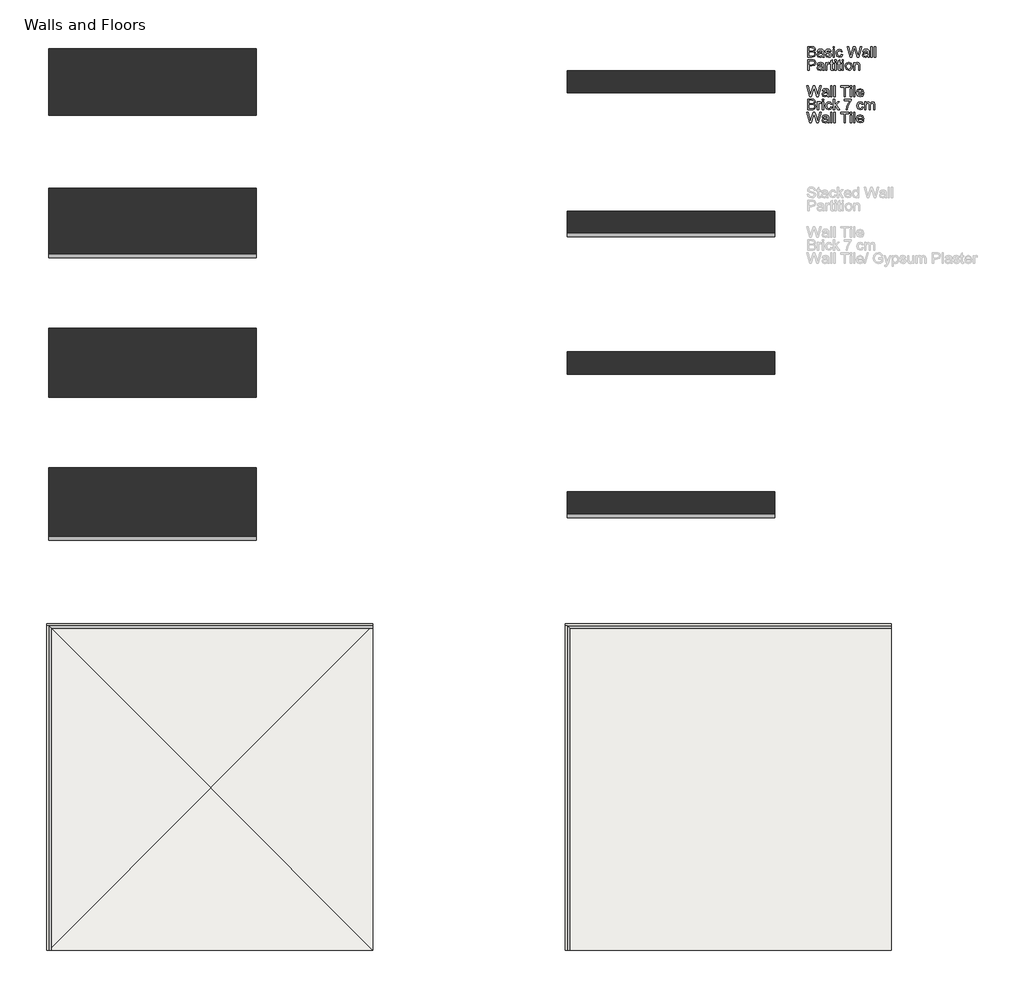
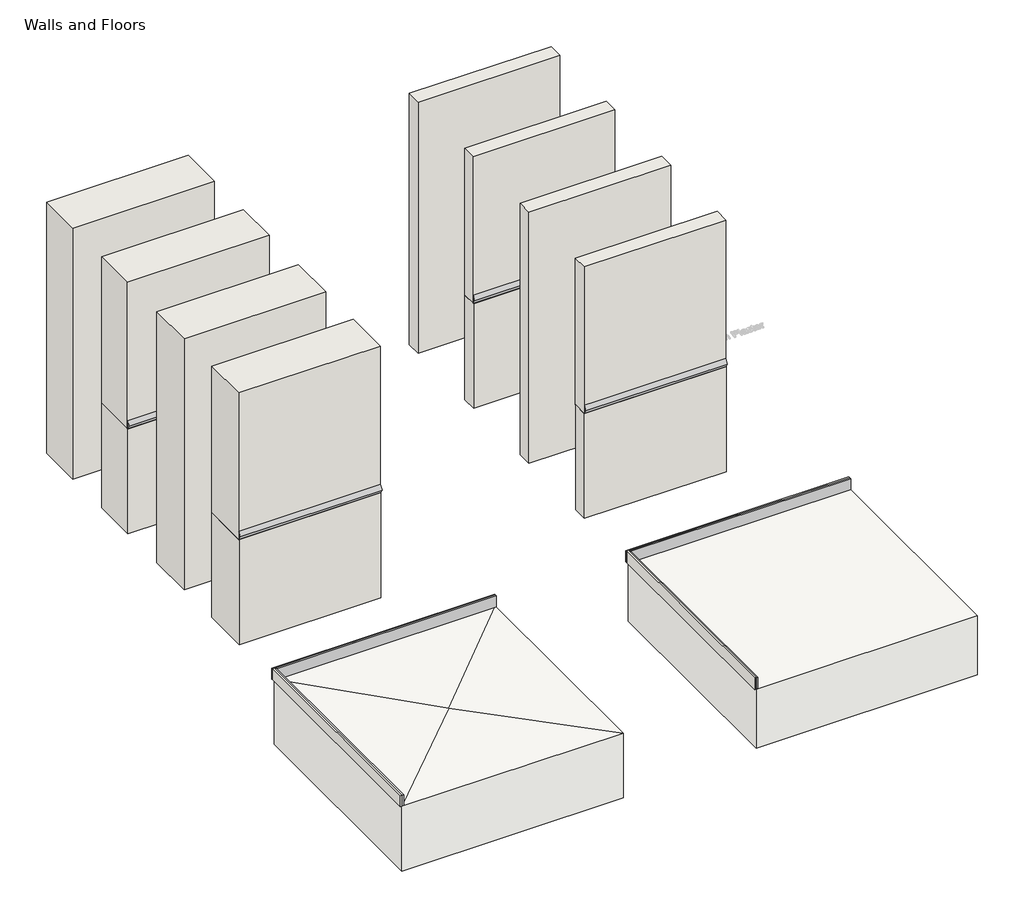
# One storey, part 1 of 2: 16 walls, 6 proxies, 2 slabs.
"""IFC4 building model written with IfcOpenShell, lengths in millimetres."""

from ifc_helpers import new_model, si_unit, frame, origin, origin_with_axes, place, context, project, spatial, polyline, outline, extrude, faceted_brep, element, save

model = new_model("IFC4")

# Units and contexts
model_context = context("Model", 3, world=origin())
ifc_project = project(units=[si_unit("LENGTHUNIT", "METRE", prefix="MILLI")], contexts=[model_context])

# Site, building, storey
site = spatial("IfcSite", under=ifc_project)
building = spatial("IfcBuilding", under=site)
storey = spatial("IfcBuildingStorey", under=building, Name="Walls and Floors", Elevation=0.0)

# Proxies
placement = place(None, origin())
element("IfcBuildingElementProxy", 1, Name="Cesantoni_Kiel_8x120_RO_Sand_Mate", ObjectType="Cesantoni_Kiel_8x120_RO_Sand_Mate", at=placement, inside=storey, context=model_context, shape_type="SweptSolid", body=[
    extrude(outline(polyline([(-7355.540849, -3634.4607854), (-7344.540849, -3645.4607854), (-7344.540849, -5134.4607854), (-7355.540849, -5134.4607854), (-7355.540849, -3634.4607854)])), origin_with_axes(), (0.0, 0.0, 1.0), 80.0),
    extrude(outline(polyline([(-5855.540849, -3634.4607854), (-5855.540849, -3645.4607854), (-7344.540849, -3645.4607854), (-7355.540849, -3634.4607854), (-5855.540849, -3634.4607854)])), origin_with_axes(), (0.0, 0.0, 1.0), 80.0),
])
element("IfcBuildingElementProxy", 2, Name="Cesantoni_Kiel_8x120_RO_Sand_Mate", ObjectType="Cesantoni_Kiel_8x120_RO_Sand_Mate", at=placement, inside=storey, context=model_context, shape_type="SweptSolid", body=[
    extrude(outline(polyline([(-4955.540849, -3634.4607854), (-4944.540849, -3645.4607854), (-4944.540849, -5134.4607854), (-4955.540849, -5134.4607854), (-4955.540849, -3634.4607854)])), origin_with_axes(), (0.0, 0.0, 1.0), 80.0),
    extrude(outline(polyline([(-3455.540849, -3634.4607854), (-3455.540849, -3645.4607854), (-4944.540849, -3645.4607854), (-4955.540849, -3634.4607854), (-3455.540849, -3634.4607854)])), origin_with_axes(), (0.0, 0.0, 1.0), 80.0),
])
element("IfcBuildingElementProxy", 3, Name="Cesantoni_Cascata_30x6_Sand_Mate", ObjectType="Cesantoni_Cascata_30x6_Sand_Mate", at=placement, inside=storey, context=model_context, shape_type="SweptSolid", body=[
    extrude(outline(polyline([(-3134.8345653, 780.0), (-3115.8345653, 810.0), (-3115.8345653, 797.8516499), (-3127.1406103, 780.0), (-3115.8345653, 762.1483501), (-3115.8345653, 750.0), (-3134.8345653, 780.0)])), frame((-4955.540849, 0.0, 0.0), z_axis=(1.0, 0.0, 0.0), x_axis=(0.0, 1.0, 0.0)), (0.0, 0.0, 1.0), 960.0),
])
element("IfcBuildingElementProxy", 4, Name="Cesantoni_Cascata_30x6_Sand_Mate", ObjectType="Cesantoni_Cascata_30x6_Sand_Mate", at=placement, inside=storey, context=model_context, shape_type="SweptSolid", body=[
    extrude(outline(polyline([(-3237.8345653, 780.0), (-3218.8345653, 810.0), (-3218.8345653, 797.8516499), (-3230.1406103, 780.0), (-3218.8345653, 762.1483501), (-3218.8345653, 750.0), (-3237.8345653, 780.0)])), frame((-7355.540849, 0.0, 0.0), z_axis=(1.0, 0.0, 0.0), x_axis=(0.0, 1.0, 0.0)), (0.0, 0.0, 1.0), 960.0),
    extrude(outline(polyline([(-1931.3345653, 780.0), (-1912.3345653, 810.0), (-1912.3345653, 797.8516499), (-1923.6406103, 780.0), (-1912.3345653, 762.1483501), (-1912.3345653, 750.0), (-1931.3345653, 780.0)])), frame((-7355.540849, 0.0, 0.0), z_axis=(1.0, 0.0, 0.0), x_axis=(0.0, 1.0, 0.0)), (0.0, 0.0, 1.0), 960.0),
])
element("IfcBuildingElementProxy", 5, Name="Cesantoni_Cascata_30x6_Sand_Mate", ObjectType="Cesantoni_Cascata_30x6_Sand_Mate", at=placement, inside=storey, context=model_context, shape_type="SweptSolid", body=[
    extrude(outline(polyline([(-1833.8345653, 780.0), (-1814.8345653, 810.0), (-1814.8345653, 797.8516499), (-1826.1406103, 780.0), (-1814.8345653, 762.1483501), (-1814.8345653, 750.0), (-1833.8345653, 780.0)])), frame((-4955.540849, 0.0, 0.0), z_axis=(1.0, 0.0, 0.0), x_axis=(0.0, 1.0, 0.0)), (0.0, 0.0, 1.0), 960.0),
])
element("IfcBuildingElementProxy", 6, Name="4mm Arial", ObjectType="4mm Arial", at=placement, inside=storey, context=model_context, shape_type="SweptSolid", body=[
    extrude(outline(polyline([(-3842.4724394, -1002.1417002), (-3842.4724394, -952.9109309), (-3823.6863817, -952.9109309), (-3814.4856606, -954.3592482), (-3809.0529683, -958.8123732), (-3807.087824, -965.1104502), (-3808.7404683, -970.8616521), (-3813.7344587, -975.2186232), (-3807.6707567, -979.8099694), (-3805.5493625, -987.4662194), (-3806.9976798, -994.0828059), (-3810.5854202, -998.7943444), (-3815.9399875, -1001.2943444), (-3823.8306125, -1002.1417002), (-3842.4724394, -1002.1417002)]), holes=[polyline([(-3836.3185933, -972.9109309), (-3825.0806125, -972.9109309), (-3818.5181125, -972.3820848), (-3814.5697952, -970.1044405), (-3813.2416702, -966.0960271), (-3814.479651, -962.081604), (-3818.025324, -959.7078059), (-3825.9339779, -959.0647771), (-3836.3185933, -959.0647771), (-3836.3185933, -972.9109309)]), polyline([(-3836.3185933, -995.987854), (-3823.698401, -995.987854), (-3819.1310933, -995.7474694), (-3815.2669106, -994.4073252), (-3812.7068144, -991.6729502), (-3811.7032087, -987.5263155), (-3812.8810933, -982.7426617), (-3816.697199, -979.8880944), (-3824.2993625, -979.0647771), (-3836.3185933, -979.0647771), (-3836.3185933, -995.987854)])]), origin_with_axes(), (0.0, 0.0, 1.0), 10.0),
    extrude(outline(polyline([(-3774.7801317, -997.5263155), (-3780.7476798, -1001.6969886), (-3787.3402279, -1002.9109309), (-3796.276526, -999.9902579), (-3799.3955163, -992.5263155), (-3798.2176317, -987.6585271), (-3795.1226798, -984.1248732), (-3790.8137856, -982.1056425), (-3785.4892663, -981.1801617), (-3774.8161894, -979.0647771), (-3776.4748433, -973.1513155), (-3783.2777279, -971.3724694), (-3789.5036894, -972.5563636), (-3792.4724394, -976.7570848), (-3798.6262856, -975.987854), (-3795.964026, -969.9782386), (-3790.603449, -966.456604), (-3782.4844587, -965.2186232), (-3775.026526, -966.3123732), (-3770.8137856, -969.0587675), (-3768.9267663, -973.2354502), (-3768.6262856, -978.6200655), (-3768.6262856, -986.2763155), (-3768.3137856, -996.9674213), (-3767.087824, -1002.1417002), (-3773.2416702, -1002.1417002), (-3774.7801317, -997.5263155)]), holes=[polyline([(-3774.7801317, -985.2186232), (-3784.7080163, -987.1056425), (-3790.0024875, -988.1032386), (-3792.400324, -989.7258348), (-3793.2416702, -992.0936232), (-3791.4087375, -995.4229502), (-3786.0301317, -996.7570848), (-3779.8041702, -995.284729), (-3775.7897471, -991.7210271), (-3774.8161894, -986.9614117), (-3774.7801317, -985.2186232)])]), origin_with_axes(), (0.0, 0.0, 1.0), 10.0),
    extrude(outline(polyline([(-3762.4724394, -991.3724694), (-3756.3185933, -990.6032386), (-3753.4700356, -995.1705463), (-3746.9435933, -996.7570848), (-3740.6695548, -995.3027579), (-3738.6262856, -991.8892963), (-3740.681574, -989.1248732), (-3747.0157087, -987.3700655), (-3756.2825356, -984.3592482), (-3760.3270067, -980.8436232), (-3761.7032087, -975.8796809), (-3760.5974394, -971.2943444), (-3757.5806125, -967.7907386), (-3753.6683529, -965.9698252), (-3748.3738817, -965.2186232), (-3740.885901, -966.4265559), (-3736.1262856, -969.6957867), (-3734.010901, -975.2186232), (-3740.1647471, -975.987854), (-3742.478449, -972.5924213), (-3747.8931125, -971.3724694), (-3753.7825356, -972.5383348), (-3755.5493625, -975.2546809), (-3754.8161894, -977.0455463), (-3752.5205163, -978.4037194), (-3747.2200356, -979.7138155), (-3738.1875837, -982.6104502), (-3733.9928721, -985.8917002), (-3732.4724394, -991.2402579), (-3734.2572952, -997.1296809), (-3739.4075356, -1001.4025175), (-3747.0277279, -1002.9109309), (-3757.760901, -1000.0022771), (-3762.4724394, -991.3724694)])), origin_with_axes(), (0.0, 0.0, 1.0), 10.0),
    extrude(outline(polyline([(-3725.5493625, -959.0647771), (-3725.5493625, -952.9109309), (-3719.3955163, -952.9109309), (-3719.3955163, -959.0647771), (-3725.5493625, -959.0647771)])), origin_with_axes(), (0.0, 0.0, 1.0), 10.0),
    extrude(outline(polyline([(-3725.5493625, -1002.1417002), (-3725.5493625, -965.987854), (-3719.3955163, -965.987854), (-3719.3955163, -1002.1417002), (-3725.5493625, -1002.1417002)])), origin_with_axes(), (0.0, 0.0, 1.0), 10.0),
    extrude(outline(polyline([(-3687.087824, -989.0647771), (-3680.9339779, -989.8340079), (-3685.8738817, -999.4433829), (-3695.6334971, -1002.9109309), (-3707.2981606, -998.0731905), (-3711.7032087, -984.1969886), (-3709.822199, -973.9746329), (-3704.089026, -967.4061232), (-3695.7176317, -965.2186232), (-3686.3606606, -968.2234309), (-3681.7032087, -976.7570848), (-3687.8570548, -977.5263155), (-3690.7116221, -972.9169405), (-3695.6695548, -971.3724694), (-3702.8029683, -974.4133348), (-3705.5493625, -984.0287194), (-3702.8630644, -993.7342482), (-3695.837824, -996.7570848), (-3690.0385452, -994.8700655), (-3687.087824, -989.0647771)])), origin_with_axes(), (0.0, 0.0, 1.0), 10.0),
    extrude(outline(polyline([(-3646.7392663, -1002.1417002), (-3660.1647471, -952.9109309), (-3653.8185933, -952.9109309), (-3646.0301317, -985.2667002), (-3643.6262856, -995.2546809), (-3641.0541702, -986.4205463), (-3631.2945548, -952.9109309), (-3622.1479202, -952.9109309), (-3615.056574, -977.2017963), (-3609.7801317, -995.2546809), (-3607.448401, -985.5551617), (-3599.587824, -952.9109309), (-3593.2416702, -952.9109309), (-3606.6791702, -1002.1417002), (-3613.2536894, -1002.1417002), (-3625.056574, -964.1609309), (-3626.7032087, -958.8604502), (-3628.5541702, -965.2426617), (-3639.3113817, -1002.1417002), (-3646.7392663, -1002.1417002)])), origin_with_axes(), (0.0, 0.0, 1.0), 10.0),
    extrude(outline(polyline([(-3564.7801317, -997.5263155), (-3570.7476798, -1001.6969886), (-3577.3402279, -1002.9109309), (-3586.276526, -999.9902579), (-3589.3955163, -992.5263155), (-3588.2176317, -987.6585271), (-3585.1226798, -984.1248732), (-3580.8137856, -982.1056425), (-3575.4892663, -981.1801617), (-3564.8161894, -979.0647771), (-3566.4748433, -973.1513155), (-3573.2777279, -971.3724694), (-3579.5036894, -972.5563636), (-3582.4724394, -976.7570848), (-3588.6262856, -975.987854), (-3585.964026, -969.9782386), (-3580.603449, -966.456604), (-3572.4844587, -965.2186232), (-3565.026526, -966.3123732), (-3560.8137856, -969.0587675), (-3558.9267663, -973.2354502), (-3558.6262856, -978.6200655), (-3558.6262856, -986.2763155), (-3558.3137856, -996.9674213), (-3557.087824, -1002.1417002), (-3563.2416702, -1002.1417002), (-3564.7801317, -997.5263155)]), holes=[polyline([(-3564.7801317, -985.2186232), (-3574.7080163, -987.1056425), (-3580.0024875, -988.1032386), (-3582.400324, -989.7258348), (-3583.2416702, -992.0936232), (-3581.4087375, -995.4229502), (-3576.0301317, -996.7570848), (-3569.8041702, -995.284729), (-3565.7897471, -991.7210271), (-3564.8161894, -986.9614117), (-3564.7801317, -985.2186232)])]), origin_with_axes(), (0.0, 0.0, 1.0), 10.0),
    extrude(outline(polyline([(-3550.1647471, -1002.1417002), (-3550.1647471, -952.9109309), (-3544.010901, -952.9109309), (-3544.010901, -1002.1417002), (-3550.1647471, -1002.1417002)])), origin_with_axes(), (0.0, 0.0, 1.0), 10.0),
    extrude(outline(polyline([(-3534.7801317, -1002.1417002), (-3534.7801317, -952.9109309), (-3528.6262856, -952.9109309), (-3528.6262856, -1002.1417002), (-3534.7801317, -1002.1417002)])), origin_with_axes(), (0.0, 0.0, 1.0), 10.0),
    extrude(outline(polyline([(-3842.4724394, -1062.9109309), (-3842.4724394, -1013.6801617), (-3824.2272471, -1013.6801617), (-3816.8714779, -1014.1489117), (-3810.8919106, -1016.4505944), (-3807.0157087, -1021.2102098), (-3805.5493625, -1027.9229502), (-3809.509699, -1038.5599694), (-3823.806574, -1042.9109309), (-3836.3185933, -1042.9109309), (-3836.3185933, -1062.9109309), (-3842.4724394, -1062.9109309)]), holes=[polyline([(-3836.3185933, -1036.7570848), (-3823.4459971, -1036.7570848), (-3814.3834971, -1034.4974694), (-3811.7032087, -1028.1392963), (-3813.2837375, -1023.0431425), (-3817.4363817, -1020.2546809), (-3823.5902279, -1019.8340079), (-3836.3185933, -1019.8340079), (-3836.3185933, -1036.7570848)])]), origin_with_axes(), (0.0, 0.0, 1.0), 10.0),
    extrude(outline(polyline([(-3774.7801317, -1058.2955463), (-3780.7476798, -1062.4662194), (-3787.3402279, -1063.6801617), (-3796.276526, -1060.7594886), (-3799.3955163, -1053.2955463), (-3798.2176317, -1048.4277579), (-3795.1226798, -1044.894104), (-3790.8137856, -1042.8748732), (-3785.4892663, -1041.9493925), (-3774.8161894, -1039.8340079), (-3776.4748433, -1033.9205463), (-3783.2777279, -1032.1417002), (-3789.5036894, -1033.3255944), (-3792.4724394, -1037.5263155), (-3798.6262856, -1036.7570848), (-3795.964026, -1030.7474694), (-3790.603449, -1027.2258348), (-3782.4844587, -1025.987854), (-3775.026526, -1027.081604), (-3770.8137856, -1029.8279982), (-3768.9267663, -1034.0046809), (-3768.6262856, -1039.3892963), (-3768.6262856, -1047.0455463), (-3768.3137856, -1057.7366521), (-3767.087824, -1062.9109309), (-3773.2416702, -1062.9109309), (-3774.7801317, -1058.2955463)]), holes=[polyline([(-3774.7801317, -1045.987854), (-3784.7080163, -1047.8748732), (-3790.0024875, -1048.8724694), (-3792.400324, -1050.4950655), (-3793.2416702, -1052.862854), (-3791.4087375, -1056.1921809), (-3786.0301317, -1057.5263155), (-3779.8041702, -1056.0539598), (-3775.7897471, -1052.4902579), (-3774.8161894, -1047.7306425), (-3774.7801317, -1045.987854)])]), origin_with_axes(), (0.0, 0.0, 1.0), 10.0),
    extrude(outline(polyline([(-3760.1647471, -1062.9109309), (-3760.1647471, -1026.7570848), (-3754.7801317, -1026.7570848), (-3754.7801317, -1032.1056425), (-3750.9580163, -1027.1777579), (-3747.1118625, -1025.987854), (-3740.9339779, -1027.8868925), (-3742.9892663, -1033.4037194), (-3747.3161894, -1032.1417002), (-3750.7957567, -1033.3556425), (-3753.0133048, -1036.7210271), (-3754.010901, -1043.9085271), (-3754.010901, -1062.9109309), (-3760.1647471, -1062.9109309)])), origin_with_axes(), (0.0, 0.0, 1.0), 10.0),
    extrude(outline(polyline([(-3724.010901, -1057.7787194), (-3723.2416702, -1063.0912194), (-3727.8450356, -1063.6801617), (-3733.0012856, -1062.6585271), (-3735.573401, -1059.9782386), (-3736.3185933, -1052.9950655), (-3736.3185933, -1032.9109309), (-3740.9339779, -1032.9109309), (-3740.9339779, -1026.7570848), (-3736.3185933, -1026.7570848), (-3736.3185933, -1017.9710271), (-3730.1647471, -1014.3532386), (-3730.1647471, -1026.7570848), (-3724.010901, -1026.7570848), (-3724.010901, -1032.9109309), (-3730.1647471, -1032.9109309), (-3730.1647471, -1052.8147771), (-3729.8402279, -1055.987854), (-3726.6911894, -1057.5263155), (-3724.010901, -1057.7787194)])), origin_with_axes(), (0.0, 0.0, 1.0), 10.0),
    extrude(outline(polyline([(-3717.8570548, -1062.9109309), (-3717.8570548, -1026.7570848), (-3711.7032087, -1026.7570848), (-3711.7032087, -1062.9109309), (-3717.8570548, -1062.9109309)])), origin_with_axes(), (0.0, 0.0, 1.0), 10.0),
    extrude(outline(polyline([(-3717.8570548, -1019.8340079), (-3717.8570548, -1013.6801617), (-3711.7032087, -1013.6801617), (-3711.7032087, -1019.8340079), (-3717.8570548, -1019.8340079)])), origin_with_axes(), (0.0, 0.0, 1.0), 10.0),
    extrude(outline(polyline([(-3689.3955163, -1057.7787194), (-3688.6262856, -1063.0912194), (-3693.229651, -1063.6801617), (-3698.385901, -1062.6585271), (-3700.9580163, -1059.9782386), (-3701.7032087, -1052.9950655), (-3701.7032087, -1032.9109309), (-3706.3185933, -1032.9109309), (-3706.3185933, -1026.7570848), (-3701.7032087, -1026.7570848), (-3701.7032087, -1017.9710271), (-3695.5493625, -1014.3532386), (-3695.5493625, -1026.7570848), (-3689.3955163, -1026.7570848), (-3689.3955163, -1032.9109309), (-3695.5493625, -1032.9109309), (-3695.5493625, -1052.8147771), (-3695.2248433, -1055.987854), (-3692.0758048, -1057.5263155), (-3689.3955163, -1057.7787194)])), origin_with_axes(), (0.0, 0.0, 1.0), 10.0),
    extrude(outline(polyline([(-3683.2416702, -1019.8340079), (-3683.2416702, -1013.6801617), (-3677.087824, -1013.6801617), (-3677.087824, -1019.8340079), (-3683.2416702, -1019.8340079)])), origin_with_axes(), (0.0, 0.0, 1.0), 10.0),
    extrude(outline(polyline([(-3683.2416702, -1062.9109309), (-3683.2416702, -1026.7570848), (-3677.087824, -1026.7570848), (-3677.087824, -1062.9109309), (-3683.2416702, -1062.9109309)])), origin_with_axes(), (0.0, 0.0, 1.0), 10.0),
    extrude(outline(polyline([(-3669.3955163, -1044.8340079), (-3668.0643865, -1036.1170607), (-3664.0709971, -1029.9902579), (-3653.229651, -1025.987854), (-3641.6010452, -1030.8616521), (-3637.087824, -1044.3292002), (-3639.0830163, -1055.2787194), (-3644.8943144, -1061.4746329), (-3653.229651, -1063.6801617), (-3664.9303721, -1058.8243925), (-3669.3955163, -1044.8340079)]), holes=[polyline([(-3663.2416702, -1044.8219886), (-3660.3931125, -1054.3592482), (-3653.229651, -1057.5263155), (-3646.0902279, -1054.3412194), (-3643.2416702, -1044.6296809), (-3646.1082567, -1035.3087675), (-3653.229651, -1032.1417002), (-3660.3931125, -1035.2967482), (-3663.2416702, -1044.8219886)])]), origin_with_axes(), (0.0, 0.0, 1.0), 10.0),
    extrude(outline(polyline([(-3630.1647471, -1062.9109309), (-3630.1647471, -1026.7570848), (-3624.010901, -1026.7570848), (-3624.010901, -1031.8051617), (-3619.3053721, -1027.4421809), (-3612.8810933, -1025.987854), (-3607.0697952, -1027.159729), (-3603.103449, -1030.2366521), (-3601.2584971, -1034.7618925), (-3600.9339779, -1040.7114117), (-3600.9339779, -1062.9109309), (-3607.087824, -1062.9109309), (-3607.087824, -1041.5407386), (-3607.7969587, -1036.0960271), (-3610.3029683, -1033.2174213), (-3614.5277279, -1032.1417002), (-3621.2044106, -1034.5575655), (-3624.010901, -1043.7282386), (-3624.010901, -1062.9109309), (-3630.1647471, -1062.9109309)])), origin_with_axes(), (0.0, 0.0, 1.0), 10.0),
    extrude(outline(polyline([(-3833.6623433, -1184.4493925), (-3847.087824, -1135.2186232), (-3840.7416702, -1135.2186232), (-3832.9532087, -1167.5743925), (-3830.5493625, -1177.5623732), (-3827.9772471, -1168.7282386), (-3818.2176317, -1135.2186232), (-3809.0709971, -1135.2186232), (-3801.979651, -1159.5094886), (-3796.7032087, -1177.5623732), (-3794.3714779, -1167.862854), (-3786.510901, -1135.2186232), (-3780.1647471, -1135.2186232), (-3793.6022471, -1184.4493925), (-3800.1767663, -1184.4493925), (-3811.979651, -1146.4686232), (-3813.6262856, -1141.1681425), (-3815.4772471, -1147.550354), (-3826.2344587, -1184.4493925), (-3833.6623433, -1184.4493925)])), origin_with_axes(), (0.0, 0.0, 1.0), 10.0),
    extrude(outline(polyline([(-3751.7032087, -1179.8340079), (-3757.6707567, -1184.0046809), (-3764.2633048, -1185.2186232), (-3773.1996029, -1182.2979502), (-3776.3185933, -1174.8340079), (-3775.1407087, -1169.9662194), (-3772.0457567, -1166.4325655), (-3767.7368625, -1164.4133348), (-3762.4123433, -1163.487854), (-3751.7392663, -1161.3724694), (-3753.3979202, -1155.4590079), (-3760.2008048, -1153.6801617), (-3766.4267663, -1154.8640559), (-3769.3955163, -1159.0647771), (-3775.5493625, -1158.2955463), (-3772.8871029, -1152.2859309), (-3767.526526, -1148.7642963), (-3759.4075356, -1147.5263155), (-3751.9496029, -1148.6200655), (-3747.7368625, -1151.3664598), (-3745.8498433, -1155.5431425), (-3745.5493625, -1160.9277579), (-3745.5493625, -1168.5840079), (-3745.2368625, -1179.2751136), (-3744.010901, -1184.4493925), (-3750.1647471, -1184.4493925), (-3751.7032087, -1179.8340079)]), holes=[polyline([(-3751.7032087, -1167.5263155), (-3761.6310933, -1169.4133348), (-3766.9255644, -1170.4109309), (-3769.323401, -1172.0335271), (-3770.1647471, -1174.4013155), (-3768.3318144, -1177.7306425), (-3762.9532087, -1179.0647771), (-3756.7272471, -1177.5924213), (-3752.712824, -1174.0287194), (-3751.7392663, -1169.269104), (-3751.7032087, -1167.5263155)])]), origin_with_axes(), (0.0, 0.0, 1.0), 10.0),
    extrude(outline(polyline([(-3737.087824, -1184.4493925), (-3737.087824, -1135.2186232), (-3730.9339779, -1135.2186232), (-3730.9339779, -1184.4493925), (-3737.087824, -1184.4493925)])), origin_with_axes(), (0.0, 0.0, 1.0), 10.0),
    extrude(outline(polyline([(-3721.7032087, -1184.4493925), (-3721.7032087, -1135.2186232), (-3715.5493625, -1135.2186232), (-3715.5493625, -1184.4493925), (-3721.7032087, -1184.4493925)])), origin_with_axes(), (0.0, 0.0, 1.0), 10.0),
    extrude(outline(polyline([(-3674.010901, -1184.4493925), (-3674.010901, -1141.3724694), (-3690.1647471, -1141.3724694), (-3690.1647471, -1135.2186232), (-3651.7032087, -1135.2186232), (-3651.7032087, -1141.3724694), (-3667.8570548, -1141.3724694), (-3667.8570548, -1184.4493925), (-3674.010901, -1184.4493925)])), origin_with_axes(), (0.0, 0.0, 1.0), 10.0),
    extrude(outline(polyline([(-3645.5493625, -1184.4493925), (-3645.5493625, -1148.2955463), (-3639.3955163, -1148.2955463), (-3639.3955163, -1184.4493925), (-3645.5493625, -1184.4493925)])), origin_with_axes(), (0.0, 0.0, 1.0), 10.0),
    extrude(outline(polyline([(-3645.5493625, -1141.3724694), (-3645.5493625, -1135.2186232), (-3639.3955163, -1135.2186232), (-3639.3955163, -1141.3724694), (-3645.5493625, -1141.3724694)])), origin_with_axes(), (0.0, 0.0, 1.0), 10.0),
    extrude(outline(polyline([(-3630.1647471, -1184.4493925), (-3630.1647471, -1135.2186232), (-3624.010901, -1135.2186232), (-3624.010901, -1184.4493925), (-3630.1647471, -1184.4493925)])), origin_with_axes(), (0.0, 0.0, 1.0), 10.0),
    extrude(outline(polyline([(-3589.4676317, -1173.6801617), (-3583.4339779, -1174.4493925), (-3589.0770067, -1182.394104), (-3599.587824, -1185.2186232), (-3612.3642663, -1180.3448252), (-3617.087824, -1166.6729502), (-3612.3161894, -1152.550354), (-3599.9363817, -1147.5263155), (-3587.9111413, -1152.5383348), (-3583.2416702, -1166.6368925), (-3583.2777279, -1168.2955463), (-3610.9339779, -1168.2955463), (-3607.3943144, -1176.2883348), (-3599.4676317, -1179.0647771), (-3593.4339779, -1177.7787194), (-3589.4676317, -1173.6801617)]), holes=[polyline([(-3610.9339779, -1162.1417002), (-3589.3955163, -1162.1417002), (-3591.8594587, -1156.5647771), (-3599.9604202, -1153.6801617), (-3607.5385452, -1155.9818444), (-3610.9339779, -1162.1417002)])]), origin_with_axes(), (0.0, 0.0, 1.0), 10.0),
    extrude(outline(polyline([(-3842.4724394, -1245.2186232), (-3842.4724394, -1195.987854), (-3823.6863817, -1195.987854), (-3814.4856606, -1197.4361713), (-3809.0529683, -1201.8892963), (-3807.087824, -1208.1873732), (-3808.7404683, -1213.9385752), (-3813.7344587, -1218.2955463), (-3807.6707567, -1222.8868925), (-3805.5493625, -1230.5431425), (-3806.9976798, -1237.159729), (-3810.5854202, -1241.8712675), (-3815.9399875, -1244.3712675), (-3823.8306125, -1245.2186232), (-3842.4724394, -1245.2186232)]), holes=[polyline([(-3836.3185933, -1215.987854), (-3825.0806125, -1215.987854), (-3818.5181125, -1215.4590079), (-3814.5697952, -1213.1813636), (-3813.2416702, -1209.1729502), (-3814.479651, -1205.1585271), (-3818.025324, -1202.784729), (-3825.9339779, -1202.1417002), (-3836.3185933, -1202.1417002), (-3836.3185933, -1215.987854)]), polyline([(-3836.3185933, -1239.0647771), (-3823.698401, -1239.0647771), (-3819.1310933, -1238.8243925), (-3815.2669106, -1237.4842482), (-3812.7068144, -1234.7498732), (-3811.7032087, -1230.6032386), (-3812.8810933, -1225.8195848), (-3816.697199, -1222.9650175), (-3824.2993625, -1222.1417002), (-3836.3185933, -1222.1417002), (-3836.3185933, -1239.0647771)])]), origin_with_axes(), (0.0, 0.0, 1.0), 10.0),
    extrude(outline(polyline([(-3797.8570548, -1245.2186232), (-3797.8570548, -1209.0647771), (-3792.4724394, -1209.0647771), (-3792.4724394, -1214.4133348), (-3788.650324, -1209.4854502), (-3784.8041702, -1208.2955463), (-3778.6262856, -1210.1945848), (-3780.681574, -1215.7114117), (-3785.0084971, -1214.4493925), (-3788.4880644, -1215.6633348), (-3790.7056125, -1219.0287194), (-3791.7032087, -1226.2162194), (-3791.7032087, -1245.2186232), (-3797.8570548, -1245.2186232)])), origin_with_axes(), (0.0, 0.0, 1.0), 10.0),
    extrude(outline(polyline([(-3774.7801317, -1245.2186232), (-3774.7801317, -1209.0647771), (-3768.6262856, -1209.0647771), (-3768.6262856, -1245.2186232), (-3774.7801317, -1245.2186232)])), origin_with_axes(), (0.0, 0.0, 1.0), 10.0),
    extrude(outline(polyline([(-3774.7801317, -1202.1417002), (-3774.7801317, -1195.987854), (-3768.6262856, -1195.987854), (-3768.6262856, -1202.1417002), (-3774.7801317, -1202.1417002)])), origin_with_axes(), (0.0, 0.0, 1.0), 10.0),
    extrude(outline(polyline([(-3736.3185933, -1232.1417002), (-3730.1647471, -1232.9109309), (-3735.104651, -1242.5203059), (-3744.8642663, -1245.987854), (-3756.5289298, -1241.1501136), (-3760.9339779, -1227.2739117), (-3759.0529683, -1217.0515559), (-3753.3197952, -1210.4830463), (-3744.948401, -1208.2955463), (-3735.5914298, -1211.300354), (-3730.9339779, -1219.8340079), (-3737.087824, -1220.6032386), (-3739.9423913, -1215.9938636), (-3744.900324, -1214.4493925), (-3752.0337375, -1217.4902579), (-3754.7801317, -1227.1056425), (-3752.0938337, -1236.8111713), (-3745.0685933, -1239.8340079), (-3739.2693144, -1237.9469886), (-3736.3185933, -1232.1417002)])), origin_with_axes(), (0.0, 0.0, 1.0), 10.0),
    extrude(outline(polyline([(-3724.7801317, -1245.2186232), (-3724.7801317, -1195.987854), (-3718.6262856, -1195.987854), (-3718.6262856, -1222.4421809), (-3704.8282087, -1209.0647771), (-3696.3185933, -1209.0647771), (-3710.2849394, -1222.6104502), (-3695.5493625, -1245.2186232), (-3702.7368625, -1245.2186232), (-3714.6959971, -1226.8892963), (-3718.6262856, -1230.6993925), (-3718.6262856, -1245.2186232), (-3724.7801317, -1245.2186232)])), origin_with_axes(), (0.0, 0.0, 1.0), 10.0),
    extrude(outline(polyline([(-3672.4724394, -1202.9109309), (-3672.4724394, -1196.7570848), (-3640.1647471, -1196.7570848), (-3640.1647471, -1201.7330463), (-3649.3294106, -1214.972229), (-3656.3426317, -1231.8412194), (-3658.6262856, -1245.2186232), (-3664.7801317, -1245.2186232), (-3662.3342183, -1231.3364117), (-3655.6214779, -1215.6453059), (-3646.3185933, -1202.9109309), (-3672.4724394, -1202.9109309)])), origin_with_axes(), (0.0, 0.0, 1.0), 10.0),
    extrude(outline(polyline([(-3590.9339779, -1232.1417002), (-3584.7801317, -1232.9109309), (-3589.7200356, -1242.5203059), (-3599.479651, -1245.987854), (-3611.1443144, -1241.1501136), (-3615.5493625, -1227.2739117), (-3613.6683529, -1217.0515559), (-3607.9351798, -1210.4830463), (-3599.5637856, -1208.2955463), (-3590.2068144, -1211.300354), (-3585.5493625, -1219.8340079), (-3591.7032087, -1220.6032386), (-3594.557776, -1215.9938636), (-3599.5157087, -1214.4493925), (-3606.6491221, -1217.4902579), (-3609.3955163, -1227.1056425), (-3606.7092183, -1236.8111713), (-3599.6839779, -1239.8340079), (-3593.884699, -1237.9469886), (-3590.9339779, -1232.1417002)])), origin_with_axes(), (0.0, 0.0, 1.0), 10.0),
    extrude(outline(polyline([(-3579.3955163, -1245.2186232), (-3579.3955163, -1209.0647771), (-3573.2416702, -1209.0647771), (-3573.2416702, -1215.0142963), (-3569.010901, -1210.1404982), (-3562.9892663, -1208.2955463), (-3556.823401, -1210.1765559), (-3553.4339779, -1215.4469886), (-3548.6322952, -1210.0834069), (-3542.5685933, -1208.2955463), (-3534.5217183, -1211.2703059), (-3531.7032087, -1220.4349694), (-3531.7032087, -1245.2186232), (-3537.8570548, -1245.2186232), (-3537.8570548, -1223.0792002), (-3538.4279683, -1217.940979), (-3540.495276, -1215.4109309), (-3544.010901, -1214.4493925), (-3550.0625837, -1216.9133348), (-3552.4724394, -1224.8099694), (-3552.4724394, -1245.2186232), (-3558.6262856, -1245.2186232), (-3558.6262856, -1222.394104), (-3560.0505644, -1216.4325655), (-3564.7200356, -1214.4493925), (-3569.275324, -1215.7715079), (-3572.3041702, -1219.6417002), (-3573.2416702, -1226.9854502), (-3573.2416702, -1245.2186232), (-3579.3955163, -1245.2186232)])), origin_with_axes(), (0.0, 0.0, 1.0), 10.0),
    extrude(outline(polyline([(-3833.6623433, -1305.987854), (-3847.087824, -1256.7570848), (-3840.7416702, -1256.7570848), (-3832.9532087, -1289.112854), (-3830.5493625, -1299.1008348), (-3827.9772471, -1290.2667002), (-3818.2176317, -1256.7570848), (-3809.0709971, -1256.7570848), (-3801.979651, -1281.0479502), (-3796.7032087, -1299.1008348), (-3794.3714779, -1289.4013155), (-3786.510901, -1256.7570848), (-3780.1647471, -1256.7570848), (-3793.6022471, -1305.987854), (-3800.1767663, -1305.987854), (-3811.979651, -1268.0070848), (-3813.6262856, -1262.706604), (-3815.4772471, -1269.0888155), (-3826.2344587, -1305.987854), (-3833.6623433, -1305.987854)])), origin_with_axes(), (0.0, 0.0, 1.0), 10.0),
    extrude(outline(polyline([(-3751.7032087, -1301.3724694), (-3757.6707567, -1305.5431425), (-3764.2633048, -1306.7570848), (-3773.1996029, -1303.8364117), (-3776.3185933, -1296.3724694), (-3775.1407087, -1291.5046809), (-3772.0457567, -1287.9710271), (-3767.7368625, -1285.9517963), (-3762.4123433, -1285.0263155), (-3751.7392663, -1282.9109309), (-3753.3979202, -1276.9974694), (-3760.2008048, -1275.2186232), (-3766.4267663, -1276.4025175), (-3769.3955163, -1280.6032386), (-3775.5493625, -1279.8340079), (-3772.8871029, -1273.8243925), (-3767.526526, -1270.3027579), (-3759.4075356, -1269.0647771), (-3751.9496029, -1270.1585271), (-3747.7368625, -1272.9049213), (-3745.8498433, -1277.081604), (-3745.5493625, -1282.4662194), (-3745.5493625, -1290.1224694), (-3745.2368625, -1300.8135752), (-3744.010901, -1305.987854), (-3750.1647471, -1305.987854), (-3751.7032087, -1301.3724694)]), holes=[polyline([(-3751.7032087, -1289.0647771), (-3761.6310933, -1290.9517963), (-3766.9255644, -1291.9493925), (-3769.323401, -1293.5719886), (-3770.1647471, -1295.9397771), (-3768.3318144, -1299.269104), (-3762.9532087, -1300.6032386), (-3756.7272471, -1299.1308829), (-3752.712824, -1295.5671809), (-3751.7392663, -1290.8075655), (-3751.7032087, -1289.0647771)])]), origin_with_axes(), (0.0, 0.0, 1.0), 10.0),
    extrude(outline(polyline([(-3737.087824, -1305.987854), (-3737.087824, -1256.7570848), (-3730.9339779, -1256.7570848), (-3730.9339779, -1305.987854), (-3737.087824, -1305.987854)])), origin_with_axes(), (0.0, 0.0, 1.0), 10.0),
    extrude(outline(polyline([(-3721.7032087, -1305.987854), (-3721.7032087, -1256.7570848), (-3715.5493625, -1256.7570848), (-3715.5493625, -1305.987854), (-3721.7032087, -1305.987854)])), origin_with_axes(), (0.0, 0.0, 1.0), 10.0),
    extrude(outline(polyline([(-3674.010901, -1305.987854), (-3674.010901, -1262.9109309), (-3690.1647471, -1262.9109309), (-3690.1647471, -1256.7570848), (-3651.7032087, -1256.7570848), (-3651.7032087, -1262.9109309), (-3667.8570548, -1262.9109309), (-3667.8570548, -1305.987854), (-3674.010901, -1305.987854)])), origin_with_axes(), (0.0, 0.0, 1.0), 10.0),
    extrude(outline(polyline([(-3645.5493625, -1305.987854), (-3645.5493625, -1269.8340079), (-3639.3955163, -1269.8340079), (-3639.3955163, -1305.987854), (-3645.5493625, -1305.987854)])), origin_with_axes(), (0.0, 0.0, 1.0), 10.0),
    extrude(outline(polyline([(-3645.5493625, -1262.9109309), (-3645.5493625, -1256.7570848), (-3639.3955163, -1256.7570848), (-3639.3955163, -1262.9109309), (-3645.5493625, -1262.9109309)])), origin_with_axes(), (0.0, 0.0, 1.0), 10.0),
    extrude(outline(polyline([(-3630.1647471, -1305.987854), (-3630.1647471, -1256.7570848), (-3624.010901, -1256.7570848), (-3624.010901, -1305.987854), (-3630.1647471, -1305.987854)])), origin_with_axes(), (0.0, 0.0, 1.0), 10.0),
    extrude(outline(polyline([(-3589.4676317, -1295.2186232), (-3583.4339779, -1295.987854), (-3589.0770067, -1303.9325655), (-3599.587824, -1306.7570848), (-3612.3642663, -1301.8832867), (-3617.087824, -1288.2114117), (-3612.3161894, -1274.0888155), (-3599.9363817, -1269.0647771), (-3587.9111413, -1274.0767963), (-3583.2416702, -1288.175354), (-3583.2777279, -1289.8340079), (-3610.9339779, -1289.8340079), (-3607.3943144, -1297.8267963), (-3599.4676317, -1300.6032386), (-3593.4339779, -1299.3171809), (-3589.4676317, -1295.2186232)]), holes=[polyline([(-3610.9339779, -1283.6801617), (-3589.3955163, -1283.6801617), (-3591.8594587, -1278.1032386), (-3599.9604202, -1275.2186232), (-3607.5385452, -1277.5203059), (-3610.9339779, -1283.6801617)])]), origin_with_axes(), (0.0, 0.0, 1.0), 10.0),
])

# Slabs
element("IfcSlab", 7, ObjectType="Exterior Floor", at=placement, inside=storey, context=model_context, shape_type="Brep", body=[
    faceted_brep([(-5855.540849, -3634.4607854, -463.0), (-5855.540849, -5134.4607854, -463.0), (-7355.540849, -5134.4607854, -463.0), (-7355.540849, -3634.4607854, -463.0), (-5855.540849, -3634.4607854, 0.0), (-5855.540849, -5134.4607854, 0.0), (-7355.540849, -5134.4607854, 0.0), (-7355.540849, -3634.4607854, 0.0), (-6605.540849, -4384.4607854, -15.0)], [[[0, 1, 2, 3]], [[1, 0, 4, 5]], [[2, 1, 5, 6]], [[3, 2, 6, 7]], [[0, 3, 7, 4]], [[7, 6, 8]], [[5, 4, 8]], [[6, 5, 8]], [[7, 8, 4]]]),
])
element("IfcSlab", 8, ObjectType="Interior Floor", at=placement, inside=storey, context=model_context, shape_type="SweptSolid", body=[
    extrude(outline(polyline([(-3455.540849, -3634.4607854), (-3455.540849, -5134.4607854), (-4955.540849, -5134.4607854), (-4955.540849, -3634.4607854), (-3455.540849, -3634.4607854)])), frame((0.0, 0.0, -423.0), z_axis=(0.0, 0.0, 1.0), x_axis=(1.0, 0.0, 0.0)), (0.0, 0.0, 1.0), 423.0),
])

# Walls
element("IfcWall", 9, ObjectType="Exterior Mortar+ Plasterboard + Painting", at=placement, inside=storey, context=model_context, shape_type="SweptSolid", body=[
    extrude(outline(polyline([(-7355.540849, -1609.3345653), (-6395.540849, -1609.3345653), (-6395.540849, -1912.3345653), (-7355.540849, -1912.3345653), (-7355.540849, -1609.3345653)])), frame((0.0, 0.0, 750.0), z_axis=(0.0, 0.0, 1.0), x_axis=(1.0, 0.0, 0.0)), (0.0, 0.0, 1.0), 1050.0),
])
element("IfcWall", 10, ObjectType="Interior Partition_Wall Tile+Brick 7cm+Painting", at=placement, inside=storey, context=model_context, shape_type="Brep", body=[
    faceted_brep([(-3995.540849, -1714.8345653, 750.0), (-4955.540849, -1714.8345653, 750.0), (-4955.540849, -1714.8345653, 1800.0), (-3995.540849, -1714.8345653, 1800.0), (-3995.540849, -1814.8345653, 750.0), (-3995.540849, -1814.8345653, 1800.0), (-4955.540849, -1814.8345653, 1800.0), (-4955.540849, -1814.8345653, 750.0), (-3995.540849, -1715.8345653, 750.0), (-4955.540849, -1715.8345653, 750.0)], [[[0, 1, 2, 3]], [[4, 5, 6, 7]], [[1, 0, 8, 4, 7, 9]], [[2, 1, 9, 7, 6]], [[3, 2, 6, 5]], [[0, 3, 5, 4, 8]]]),
])
element("IfcWall", 11, ObjectType="Exterior Mortar+ Plasterboard + Gypsum Plaster + Painting", at=placement, inside=storey, context=model_context, shape_type="SweptSolid", body=[
    extrude(outline(polyline([(-7355.540849, -2902.8345653), (-6395.540849, -2902.8345653), (-6395.540849, -3218.8345653), (-7355.540849, -3218.8345653), (-7355.540849, -2902.8345653)])), frame((0.0, 0.0, 750.0), z_axis=(0.0, 0.0, 1.0), x_axis=(1.0, 0.0, 0.0)), (0.0, 0.0, 1.0), 1050.0),
])
element("IfcWall", 12, ObjectType="Interior Partition_Wall Tile+Gypsum Plaster+Painting", at=placement, inside=storey, context=model_context, shape_type="Brep", body=[
    faceted_brep([(-3995.540849, -3013.8345653, 750.0), (-4955.540849, -3013.8345653, 750.0), (-4955.540849, -3013.8345653, 1800.0), (-3995.540849, -3013.8345653, 1800.0), (-3995.540849, -3115.8345653, 750.0), (-3995.540849, -3115.8345653, 1800.0), (-4955.540849, -3115.8345653, 1800.0), (-4955.540849, -3115.8345653, 750.0), (-3995.540849, -3014.8345653, 750.0), (-4955.540849, -3014.8345653, 750.0)], [[[0, 1, 2, 3]], [[4, 5, 6, 7]], [[1, 0, 8, 4, 7, 9]], [[2, 1, 9, 7, 6]], [[3, 2, 6, 5]], [[0, 3, 5, 4, 8]]]),
])
element("IfcWall", 13, ObjectType="Basic Wall_Two Layer Enclosure 2", at=placement, inside=storey, context=model_context, shape_type="SweptSolid", body=[
    extrude(outline(polyline([(-6395.540849, -2576.8345653), (-7355.540849, -2576.8345653), (-7355.540849, -2256.8345653), (-6395.540849, -2256.8345653), (-6395.540849, -2576.8345653)])), origin_with_axes(), (0.0, 0.0, 1.0), 1800.0),
])
element("IfcWall", 14, ObjectType="Basic Wall_Two Layer Enclosure 2", at=placement, inside=storey, context=model_context, shape_type="Brep", body=[
    faceted_brep([(-6395.540849, -2902.8345653, 0.0), (-7355.540849, -2902.8345653, 0.0), (-7355.540849, -2902.8345653, 750.0), (-6395.540849, -2902.8345653, 750.0), (-6395.540849, -3222.8345653, 0.0), (-6395.540849, -3222.8345653, 750.0), (-7355.540849, -3222.8345653, 750.0), (-7355.540849, -3222.8345653, 0.0), (-7355.540849, -3218.8345653, 750.0), (-6395.540849, -3218.8345653, 750.0)], [[[0, 1, 2, 3]], [[4, 5, 6, 7]], [[1, 0, 4, 7]], [[2, 1, 7, 6, 8]], [[3, 2, 8, 6, 5, 9]], [[0, 3, 9, 5, 4]]]),
])
element("IfcWall", 15, ObjectType="Exterior Mortar+Brick 11cm+XPS+Brick 7cm+Wall Tile", at=placement, inside=storey, context=model_context, shape_type="SweptSolid", body=[
    extrude(outline(polyline([(-6395.540849, -1270.3345653), (-7355.540849, -1270.3345653), (-7355.540849, -963.3345653), (-6395.540849, -963.3345653), (-6395.540849, -1270.3345653)])), origin_with_axes(), (0.0, 0.0, 1.0), 1800.0),
])
element("IfcWall", 16, ObjectType="Exterior Mortar+Brick 11cm+XPS+Brick 7cm+Wall Tile", at=placement, inside=storey, context=model_context, shape_type="Brep", body=[
    faceted_brep([(-6395.540849, -1609.3345653, 0.0), (-7355.540849, -1609.3345653, 0.0), (-7355.540849, -1609.3345653, 750.0), (-6395.540849, -1609.3345653, 750.0), (-6395.540849, -1916.3345653, 0.0), (-6395.540849, -1916.3345653, 750.0), (-7355.540849, -1916.3345653, 750.0), (-7355.540849, -1916.3345653, 0.0), (-7355.540849, -1912.3345653, 750.0), (-6395.540849, -1912.3345653, 750.0)], [[[0, 1, 2, 3]], [[4, 5, 6, 7]], [[1, 0, 4, 7]], [[2, 1, 7, 6, 8]], [[3, 2, 8, 6, 5, 9]], [[0, 3, 9, 5, 4]]]),
])
element("IfcWall", 17, ObjectType="Generic- 10 mm", at=placement, inside=storey, context=model_context, shape_type="Brep", body=[
    faceted_brep([(-5855.540849, -3624.4607854, 0.0), (-7365.540849, -3624.4607854, 0.0), (-7365.540849, -3624.4607854, 78.6453842), (-5855.540849, -3624.4607854, 78.6453842), (-5855.540849, -3634.4607854, 0.0), (-5855.540849, -3634.4607854, 78.6453842), (-7365.540849, -3634.4607854, 78.6453842), (-7365.540849, -3634.4607854, 0.0), (-7355.540849, -3634.4607854, 0.0)], [[[0, 1, 2, 3]], [[4, 5, 6, 7, 8]], [[1, 0, 4, 8, 7]], [[3, 2, 6, 5]], [[0, 3, 5, 4]], [[2, 1, 7, 6]]]),
])
element("IfcWall", 18, ObjectType="Generic- 10 mm", at=placement, inside=storey, context=model_context, shape_type="Brep", body=[
    faceted_brep([(-7365.540849, -3634.4607854, 0.0), (-7365.540849, -5134.4607854, 0.0), (-7365.540849, -5134.4607854, 81.1453842), (-7365.540849, -3634.4607854, 81.1453842), (-7365.540849, -3634.4607854, 78.6453842), (-7355.540849, -3634.4607854, 0.0), (-7355.540849, -3634.4607854, 81.1453842), (-7355.540849, -5134.4607854, 81.1453842), (-7355.540849, -5134.4607854, 0.0)], [[[0, 1, 2, 3, 4]], [[5, 6, 7, 8]], [[1, 0, 5, 8]], [[2, 1, 8, 7]], [[3, 2, 7, 6]], [[0, 4, 3, 6, 5]]]),
])
element("IfcWall", 19, ObjectType="Generic- 10 mm", at=placement, inside=storey, context=model_context, shape_type="Brep", body=[
    faceted_brep([(-3455.540849, -3624.4607854, 0.0), (-4965.540849, -3624.4607854, 0.0), (-4965.540849, -3624.4607854, 79.8383898), (-3455.540849, -3624.4607854, 79.8383898), (-3455.540849, -3634.4607854, 0.0), (-3455.540849, -3634.4607854, 79.8383898), (-4965.540849, -3634.4607854, 79.8383898), (-4965.540849, -3634.4607854, 0.0), (-4955.540849, -3634.4607854, 0.0)], [[[0, 1, 2, 3]], [[4, 5, 6, 7, 8]], [[1, 0, 4, 8, 7]], [[3, 2, 6, 5]], [[0, 3, 5, 4]], [[2, 1, 7, 6]]]),
])
element("IfcWall", 20, ObjectType="Generic- 10 mm", at=placement, inside=storey, context=model_context, shape_type="Brep", body=[
    faceted_brep([(-4965.540849, -3634.4607854, 0.0), (-4965.540849, -5134.4607854, 0.0), (-4965.540849, -5134.4607854, 85.905069), (-4965.540849, -3634.4607854, 85.905069), (-4965.540849, -3634.4607854, 79.8383898), (-4955.540849, -3634.4607854, 0.0), (-4955.540849, -3634.4607854, 85.905069), (-4955.540849, -5134.4607854, 85.905069), (-4955.540849, -5134.4607854, 0.0)], [[[0, 1, 2, 3, 4]], [[5, 6, 7, 8]], [[1, 0, 5, 8]], [[2, 1, 8, 7]], [[3, 2, 7, 6]], [[0, 4, 3, 6, 5]]]),
])
element("IfcWall", 21, ObjectType="Interior Partition_Wall Tile+Brick 7cm+Wall Tile", at=placement, inside=storey, context=model_context, shape_type="SweptSolid", body=[
    extrude(outline(polyline([(-3995.540849, -1167.8345653), (-4955.540849, -1167.8345653), (-4955.540849, -1065.8345653), (-3995.540849, -1065.8345653), (-3995.540849, -1167.8345653)])), origin_with_axes(), (0.0, 0.0, 1.0), 1800.0),
])
element("IfcWall", 22, ObjectType="Interior Partition_Wall Tile+Brick 7cm+Wall Tile", at=placement, inside=storey, context=model_context, shape_type="Brep", body=[
    faceted_brep([(-3995.540849, -1715.8345653, 0.0), (-4955.540849, -1715.8345653, 0.0), (-4955.540849, -1715.8345653, 750.0), (-3995.540849, -1715.8345653, 750.0), (-3995.540849, -1817.8345653, 0.0), (-3995.540849, -1817.8345653, 750.0), (-4955.540849, -1817.8345653, 750.0), (-4955.540849, -1817.8345653, 0.0), (-4955.540849, -1814.8345653, 750.0), (-3995.540849, -1814.8345653, 750.0)], [[[0, 1, 2, 3]], [[4, 5, 6, 7]], [[1, 0, 4, 7]], [[2, 1, 7, 6, 8]], [[3, 2, 8, 6, 5, 9]], [[0, 3, 9, 5, 4]]]),
])
element("IfcWall", 23, ObjectType="Interior Partition_Wall Tile+Plasterboard+Wall Tile", at=placement, inside=storey, context=model_context, shape_type="SweptSolid", body=[
    extrude(outline(polyline([(-3995.540849, -2468.8345653), (-4955.540849, -2468.8345653), (-4955.540849, -2364.8345653), (-3995.540849, -2364.8345653), (-3995.540849, -2468.8345653)])), origin_with_axes(), (0.0, 0.0, 1.0), 1800.0),
])
element("IfcWall", 24, ObjectType="Interior Partition_Wall Tile+Plasterboard+Wall Tile", at=placement, inside=storey, context=model_context, shape_type="Brep", body=[
    faceted_brep([(-3995.540849, -3014.8345653, 0.0), (-4955.540849, -3014.8345653, 0.0), (-4955.540849, -3014.8345653, 750.0), (-3995.540849, -3014.8345653, 750.0), (-3995.540849, -3118.8345653, 0.0), (-3995.540849, -3118.8345653, 750.0), (-4955.540849, -3118.8345653, 750.0), (-4955.540849, -3118.8345653, 0.0), (-4955.540849, -3115.8345653, 750.0), (-3995.540849, -3115.8345653, 750.0)], [[[0, 1, 2, 3]], [[4, 5, 6, 7]], [[1, 0, 4, 7]], [[2, 1, 7, 6, 8]], [[3, 2, 8, 6, 5, 9]], [[0, 3, 9, 5, 4]]]),
])

save(model, "model.ifc")
